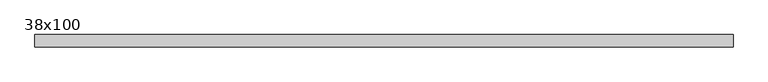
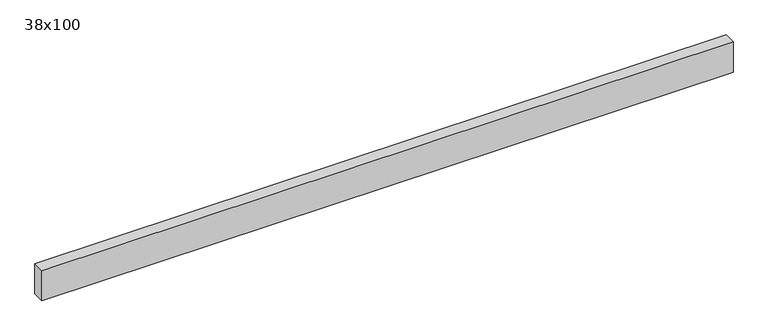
"""IFC4 building model written with IfcOpenShell, lengths in millimetres: beam geometry, Poutre - Bois de construction de dimensions courantes : 38x100."""

import ifcopenshell
import ifcopenshell.guid

model = None  # the IFC model being written
_history = None  # IfcOwnerHistory: only IFC2X3 demands one
_inside = {}  # id of a spatial element -> (the spatial element, [elements in it])
_under = {}  # id of a project, library or spatial element -> (it, [spatial elements below it])
_declared = {}  # id of a project -> (the project, [libraries it declares])
_typed = {}  # id of a type object -> (the type object, [elements of that type])
_made_of = {}  # id of a material, layer set ... -> (it, [elements and type objects made of it])


def new_model(schema):
    """Start an empty IFC model of exactly this schema.

    Asked for "IFC4X3", IfcOpenShell would pick the latest addendum, in which some entities
    have other attributes; the version numbers below select the first issue.
    IFC2X3 requires an IfcOwnerHistory on every rooted entity: one is made here for all.
    """
    global model, _history
    if schema == "IFC4X3":
        model = ifcopenshell.file(schema_version=(4, 3, 0, 0))
    else:
        model = ifcopenshell.file(schema=schema)
    _inside.clear()
    _under.clear()
    _declared.clear()
    _typed.clear()
    _made_of.clear()
    _history = None
    if model.schema == "IFC2X3":
        org = make("IfcOrganization", Name="unknown")
        user = make(
            "IfcPersonAndOrganization",
            ThePerson=make("IfcPerson", FamilyName="unknown"),
            TheOrganization=org,
        )
        app = make(
            "IfcApplication",
            ApplicationDeveloper=org,
            Version="unknown",
            ApplicationFullName="unknown",
            ApplicationIdentifier="unknown",
        )
        _history = make(
            "IfcOwnerHistory",
            OwningUser=user,
            OwningApplication=app,
            ChangeAction="ADDED",
            CreationDate=0,
        )
    return model


def make(cls, **values):
    """One entity of the class cls with the attributes given. An attribute that is None is left unset."""
    return model.create_entity(
        cls, **{name: value for name, value in values.items() if value is not None}
    )


def rooted(cls, **values):
    """An entity with a GlobalId (a new one), such as an element, a storey or a relation."""
    return make(cls, GlobalId=ifcopenshell.guid.new(), OwnerHistory=_history, **values)


def si_unit(unit_type, name, prefix=None):
    """IfcSIUnit, for example si_unit("LENGTHUNIT", "METRE", prefix="MILLI")."""
    return make("IfcSIUnit", UnitType=unit_type, Prefix=prefix, Name=name)


def assignment(units):
    """IfcUnitAssignment: the units of a project."""
    return None if units is None else make("IfcUnitAssignment", Units=units)


def point(xyz):
    """IfcCartesianPoint."""
    return None if xyz is None else make("IfcCartesianPoint", Coordinates=xyz)


def direction(xyz):
    """IfcDirection."""
    return None if xyz is None else make("IfcDirection", DirectionRatios=xyz)


def frame(location, z_axis=None, x_axis=None):
    """IfcAxis2Placement3D, a coordinate frame: its origin and axes. An axis left out is left unset."""
    return make(
        "IfcAxis2Placement3D",
        Location=point(location),
        Axis=direction(z_axis),
        RefDirection=direction(x_axis),
    )


def origin():
    """The frame at (0, 0, 0) with its axes left unset."""
    return frame((0.0, 0.0, 0.0))


def place(relative_to, where):
    """IfcLocalPlacement: puts the frame where relative to a parent placement (None: the world)."""
    return make(
        "IfcLocalPlacement", PlacementRelTo=relative_to, RelativePlacement=where
    )


def context(
    kind, dimensions, precision=None, world=None, true_north=None, identifier=None
):
    """IfcGeometricRepresentationContext, for example the 3D "Model" context."""
    return make(
        "IfcGeometricRepresentationContext",
        ContextIdentifier=identifier,
        ContextType=kind,
        CoordinateSpaceDimension=dimensions,
        Precision=precision,
        WorldCoordinateSystem=world,
        TrueNorth=true_north,
    )


def project(units=None, contexts=None):
    """IfcProject with its units and contexts."""
    return rooted(
        "IfcProject",
        Name="project",
        RepresentationContexts=contexts,
        UnitsInContext=assignment(units),
    )


def spatial(cls, under=None, at=None, **own):
    """A site, building, storey or space (cls), placed at a placement, below another one or the project."""
    s = rooted(cls, ObjectPlacement=at, **own)
    if under is not None:
        _under.setdefault(under.id(), (under, []))[1].append(s)
    return s


def polyline(points):
    """IfcPolyline through the points."""
    return make("IfcPolyline", Points=[point(p) for p in points])


def outline(outer, holes=None, kind="AREA"):
    """IfcArbitraryClosedProfileDef: a profile drawn as a closed curve; with holes, ...WithVoids."""
    if holes is None:
        return make("IfcArbitraryClosedProfileDef", ProfileType=kind, OuterCurve=outer)
    return make(
        "IfcArbitraryProfileDefWithVoids",
        ProfileType=kind,
        OuterCurve=outer,
        InnerCurves=holes,
    )


def extrude(swept, where, along, depth):
    """IfcExtrudedAreaSolid: the profile swept, set in the frame where, extruded along a direction by depth."""
    return make(
        "IfcExtrudedAreaSolid",
        SweptArea=swept,
        Position=where,
        ExtrudedDirection=direction(along),
        Depth=depth,
    )


def shape(context_of_items, identifier, shape_type, items):
    """IfcShapeRepresentation: the items that make up one representation, for example the "Body"."""
    return make(
        "IfcShapeRepresentation",
        ContextOfItems=context_of_items,
        RepresentationIdentifier=identifier,
        RepresentationType=shape_type,
        Items=items,
    )


def source(mapping_origin, context_of_items, identifier, shape_type, items):
    """IfcRepresentationMap: a shape defined once, which mapped items show again and again."""
    return make(
        "IfcRepresentationMap",
        MappingOrigin=mapping_origin,
        MappedRepresentation=shape(context_of_items, identifier, shape_type, items),
    )


def transform(
    local_origin,
    x_axis=None,
    y_axis=None,
    z_axis=None,
    scale=None,
    scale2=None,
    scale3=None,
    uniform=True,
):
    """IfcCartesianTransformationOperator3D, or its non-uniform kind. x_axis, y_axis, z_axis: its Axis1, 2, 3."""
    if uniform:
        return make(
            "IfcCartesianTransformationOperator3D",
            Axis1=direction(x_axis),
            Axis2=direction(y_axis),
            LocalOrigin=point(local_origin),
            Scale=scale,
            Axis3=direction(z_axis),
        )
    return make(
        "IfcCartesianTransformationOperator3DnonUniform",
        Axis1=direction(x_axis),
        Axis2=direction(y_axis),
        LocalOrigin=point(local_origin),
        Scale=scale,
        Axis3=direction(z_axis),
        Scale2=scale2,
        Scale3=scale3,
    )


def mapped(mapping_source, mapping_target):
    """IfcMappedItem: shows the shape of a source again, moved by a transform."""
    return make(
        "IfcMappedItem", MappingSource=mapping_source, MappingTarget=mapping_target
    )


def made_of(thing, what):
    """Note that an element or type object is made of a material, layer set ...; save() writes the relation."""
    if what is not None:
        _made_of.setdefault(what.id(), (what, []))[1].append(thing)
    return thing


def element(
    cls,
    number,
    at=None,
    inside=None,
    cuts=None,
    type_object=None,
    material=None,
    context=None,
    identifier="Body",
    shape_type=None,
    held_by="IfcProductDefinitionShape",
    body=None,
    shapes=None,
    **own,
):
    """One element of the class cls, such as IfcWall. Its Tag is "e" and its number.

    at: its placement. inside: the storey or other place that contains it. cuts: it is an
    opening in that element (IfcRelVoidsElement). A single representation is given by context,
    identifier, shape_type and body (its items); several are given by shapes. held_by: the class
    of the entity that holds the representations. save() writes the other relations.
    """
    e = rooted(cls, Tag="e%d" % number, ObjectPlacement=at, **own)
    if body is not None:
        shapes = [shape(context, identifier, shape_type, body)]
    if shapes is not None:
        e.Representation = make(held_by, Representations=shapes)
    if inside is not None:
        _inside.setdefault(inside.id(), (inside, []))[1].append(e)
    if cuts is not None:
        rooted(
            "IfcRelVoidsElement", RelatingBuildingElement=cuts, RelatedOpeningElement=e
        )
    if type_object is not None:
        _typed.setdefault(type_object.id(), (type_object, []))[1].append(e)
    return made_of(e, material)


def aggregate(whole, parts):
    """IfcRelAggregates: a whole, such as a stair, and the parts it consists of."""
    return rooted("IfcRelAggregates", RelatingObject=whole, RelatedObjects=parts)


def save(model, path):
    """Write the relations noted so far, then the file.

    IfcRelAggregates (storeys below a building ...), IfcRelContainedInSpatialStructure (elements
    in a storey), IfcRelDefinesByType, IfcRelAssociatesMaterial and IfcRelDeclares: one each for
    every whole, place, type object, material and project.
    """
    for whole, parts in _under.values():
        aggregate(whole, parts)
    for where, things in _inside.values():
        rooted(
            "IfcRelContainedInSpatialStructure",
            RelatedElements=things,
            RelatingStructure=where,
        )
    for kind, things in _typed.values():
        rooted("IfcRelDefinesByType", RelatedObjects=things, RelatingType=kind)
    for what, things in _made_of.values():
        rooted("IfcRelAssociatesMaterial", RelatedObjects=things, RelatingMaterial=what)
    for by, libraries in _declared.values():
        rooted("IfcRelDeclares", RelatingContext=by, RelatedDefinitions=libraries)
    model.write(path)


def beam_38x100_c30841c8(model_context):
    return source(origin(), model_context, "Body", "SweptSolid", [
        extrude(outline(polyline([(1003.5, 19.05), (1003.5, -19.05), (-1163.5, -19.05), (-1163.5, 19.05), (1003.5, 19.05)])), frame((0.0, 0.0, -50.0), z_axis=(0.0, 0.0, 1.0), x_axis=(1.0, 0.0, 0.0)), (0.0, 0.0, 1.0), 100.0),
    ])


if __name__ == "__main__":
    model = new_model("IFC4")
    model_context = context("Model", 3, world=origin())
    ifc_project = project(units=[si_unit("LENGTHUNIT", "METRE", prefix="MILLI")], contexts=[model_context])
    site = spatial("IfcSite", under=ifc_project)
    building = spatial("IfcBuilding", under=site)
    placement = place(None, origin())
    beam_38x100_shape = beam_38x100_c30841c8(model_context)
    element("IfcBeam", 1, ObjectType="Poutre - Bois de construction de dimensions courantes : 38x100", at=placement, inside=building, context=model_context, shape_type="MappedRepresentation", body=[
        mapped(beam_38x100_shape, transform((0.0, 0.0, 0.0), x_axis=(1.0, 0.0, 0.0), y_axis=(0.0, 1.0, 0.0), z_axis=(0.0, 0.0, 1.0))),
    ])
    save(model, "model.ifc")
